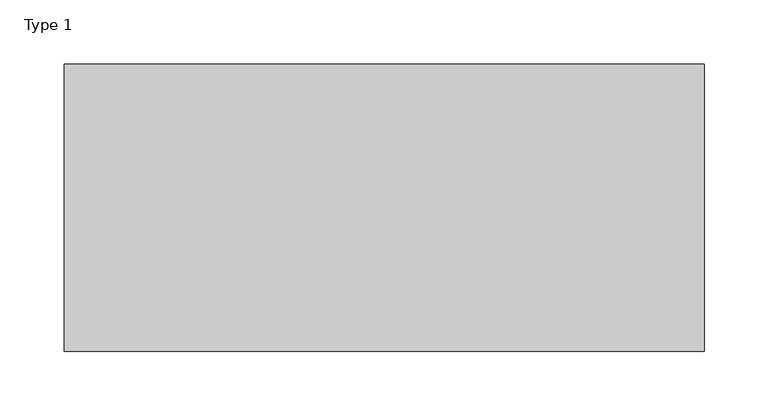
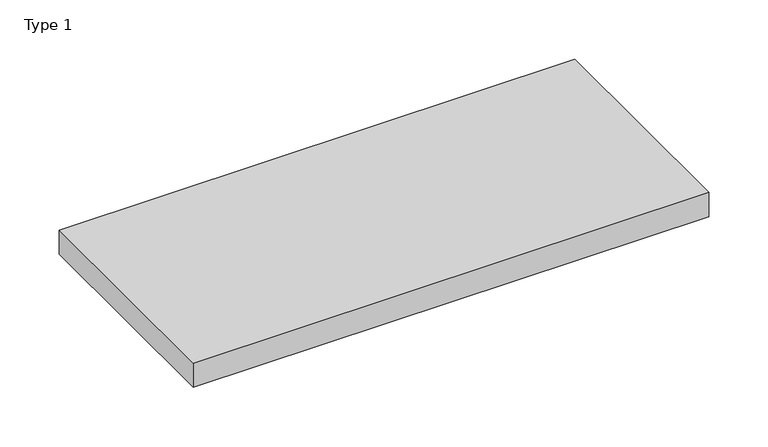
"""IFC4 building model written with IfcOpenShell, lengths in millimetres: proxy geometry, BIMHealth-Suction_Pump_Shelf-LOD2A-v1 : Type 1."""

from ifc_helpers import new_model, si_unit, frame, origin, place, context, project, spatial, polyline, outline, extrude, source, transform, mapped, element, save


def type_1_1f014aee(model_context):
    return source(origin(), model_context, "Body", "SweptSolid", [
        extrude(outline(polyline([(375.0, 50.0), (-125.0, 50.0), (-125.0, 275.0), (375.0, 275.0), (375.0, 50.0)])), frame((0.0, 0.0, 1500.0), z_axis=(0.0, 0.0, 1.0), x_axis=(1.0, 0.0, 0.0)), (0.0, 0.0, 1.0), 25.0),
    ])


if __name__ == "__main__":
    model = new_model("IFC4")
    model_context = context("Model", 3, world=origin())
    ifc_project = project(units=[si_unit("LENGTHUNIT", "METRE", prefix="MILLI")], contexts=[model_context])
    site = spatial("IfcSite", under=ifc_project)
    building = spatial("IfcBuilding", under=site)
    placement = place(None, origin())
    type_1_shape = type_1_1f014aee(model_context)
    element("IfcBuildingElementProxy", 1, Name="BIMHealth-Suction_Pump_Shelf-LOD2A-v1 : Type 1", ObjectType="BIMHealth-Suction_Pump_Shelf-LOD2A-v1 : Type 1", at=placement, inside=building, context=model_context, shape_type="MappedRepresentation", body=[
        mapped(type_1_shape, transform((0.0, 0.0, 0.0), x_axis=(1.0, 0.0, 0.0), y_axis=(0.0, 1.0, 0.0), z_axis=(0.0, 0.0, 1.0))),
    ])
    save(model, "model.ifc")
